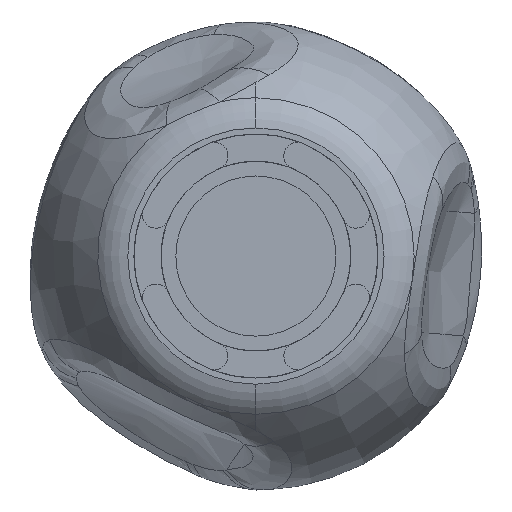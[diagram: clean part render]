
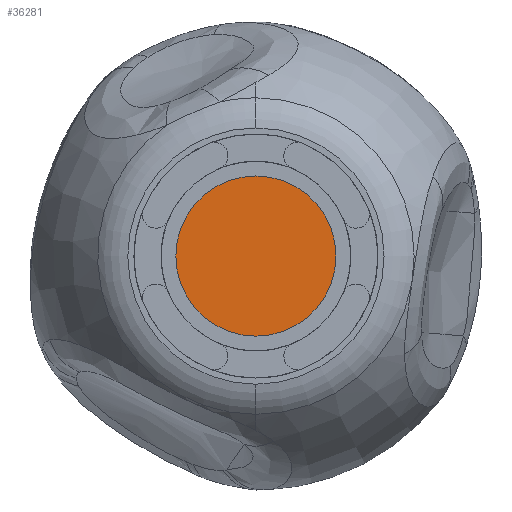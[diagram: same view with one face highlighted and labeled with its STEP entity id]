
A CAD part, front view. The second image highlights one B-rep face of the part: STEP entity #36281.
In plain terms, the highlighted planar face has unit normal (0, -1, 0).
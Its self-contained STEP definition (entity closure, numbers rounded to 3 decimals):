
#652 = EDGE_CURVE ( 'NONE', #14744, #35170, #4374, .T. ) ;
#4374 = CIRCLE ( 'NONE', #42444, 32.5 ) ;
#10323 = DIRECTION ( 'NONE',  ( 0., -1., 0. ) ) ;
#14744 = VERTEX_POINT ( 'NONE', #57617 ) ;
#16653 = ORIENTED_EDGE ( 'NONE', *, *, #62142, .T. ) ;
#19408 = DIRECTION ( 'NONE',  ( 0., 0., -1. ) ) ;
#23284 = CARTESIAN_POINT ( 'NONE',  ( 0., 8., 0. ) ) ;
#24794 = PLANE ( 'NONE',  #57402 ) ;
#25112 = DIRECTION ( 'NONE',  ( 0., 0., -1. ) ) ;
#28250 = CARTESIAN_POINT ( 'NONE',  ( 0., 8., -32.5 ) ) ;
#31476 = CIRCLE ( 'NONE', #52050, 32.5 ) ;
#35170 = VERTEX_POINT ( 'NONE', #28250 ) ;
#36281 = ADVANCED_FACE ( 'NONE', ( #45394 ), #24794, .T. ) ;
#38380 = CARTESIAN_POINT ( 'NONE',  ( 0., 8., 0. ) ) ;
#39015 = DIRECTION ( 'NONE',  ( 0., 0., -1. ) ) ;
#42444 = AXIS2_PLACEMENT_3D ( 'NONE', #38380, #43856, #39015 ) ;
#43856 = DIRECTION ( 'NONE',  ( 0., -1., 0. ) ) ;
#45394 = FACE_OUTER_BOUND ( 'NONE', #50938, .T. ) ;
#50938 = EDGE_LOOP ( 'NONE', ( #16653, #50985 ) ) ;
#50985 = ORIENTED_EDGE ( 'NONE', *, *, #652, .T. ) ;
#52050 = AXIS2_PLACEMENT_3D ( 'NONE', #23284, #58054, #19408 ) ;
#54102 = CARTESIAN_POINT ( 'NONE',  ( 0., 8., 0. ) ) ;
#57402 = AXIS2_PLACEMENT_3D ( 'NONE', #54102, #10323, #25112 ) ;
#57617 = CARTESIAN_POINT ( 'NONE',  ( 0., 8., 32.5 ) ) ;
#58054 = DIRECTION ( 'NONE',  ( 0., -1., 0. ) ) ;
#62142 = EDGE_CURVE ( 'NONE', #35170, #14744, #31476, .T. ) ;
